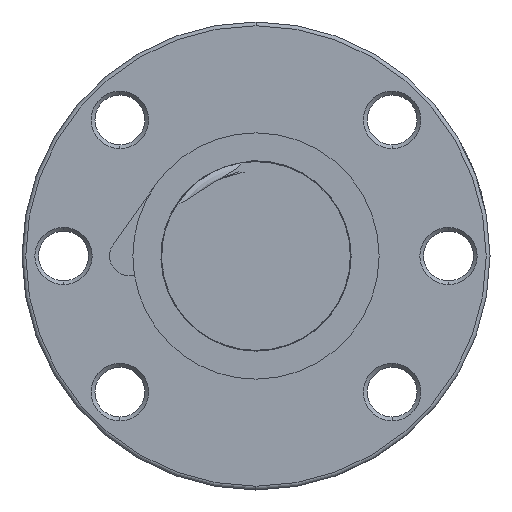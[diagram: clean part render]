
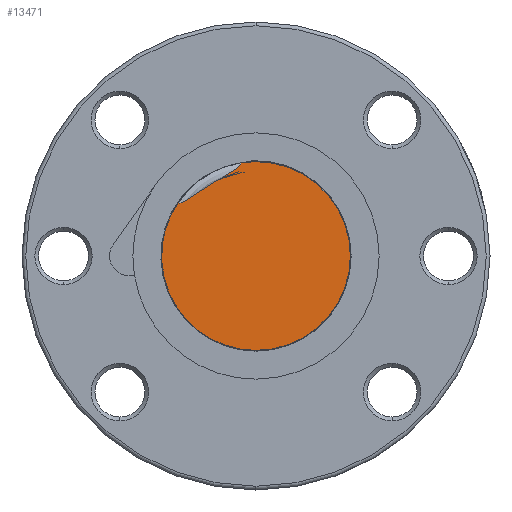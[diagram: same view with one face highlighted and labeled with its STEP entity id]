
A CAD part, left-side view. The second image highlights one B-rep face of the part: STEP entity #13471.
In plain terms, the highlighted planar face has unit normal (-1, 0, 0).
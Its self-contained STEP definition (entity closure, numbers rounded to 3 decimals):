
#4623 = CARTESIAN_POINT ( 'NONE',  ( -271., 10.355, 7.001 ) ) ;
#4681 = CARTESIAN_POINT ( 'NONE',  ( -271., 0., 12.5 ) ) ;
#4688 = CARTESIAN_POINT ( 'NONE',  ( -271., 1.927, 12.351 ) ) ;
#4710 = DIRECTION ( 'NONE',  ( 0., 1., 0. ) ) ;
#4711 = DIRECTION ( 'NONE',  ( 1., 0., 0. ) ) ;
#4712 = CARTESIAN_POINT ( 'NONE',  ( -271., 0., 0. ) ) ;
#4713 = AXIS2_PLACEMENT_3D ( 'NONE', #4712, #4711, #4710 ) ;
#4714 = CIRCLE ( 'NONE', #4713, 12.5 ) ;
#4781 = DIRECTION ( 'NONE',  ( 0., 1., 0. ) ) ;
#4782 = DIRECTION ( 'NONE',  ( 1., 0., 0. ) ) ;
#4783 = CARTESIAN_POINT ( 'NONE',  ( -271., 0., 0. ) ) ;
#4784 = AXIS2_PLACEMENT_3D ( 'NONE', #4783, #4782, #4781 ) ;
#4785 = CIRCLE ( 'NONE', #4784, 12.5 ) ;
#4787 = CARTESIAN_POINT ( 'NONE',  ( -271., 0., -12.5 ) ) ;
#12881 = EDGE_CURVE ( 'NONE', #12882, #12885, #4714, .T. ) ;
#12882 = VERTEX_POINT ( 'NONE', #4688 ) ;
#12885 = VERTEX_POINT ( 'NONE', #4681 ) ;
#12896 = VERTEX_POINT ( 'NONE', #4623 ) ;
#12905 = VERTEX_POINT ( 'NONE', #4787 ) ;
#12908 = EDGE_CURVE ( 'NONE', #12905, #12896, #4785, .T. ) ;
#13325 = EDGE_CURVE ( 'NONE', #12885, #12905, #15871, .T. ) ;
#13352 = ORIENTED_EDGE ( 'NONE', *, *, #13353, .T. ) ;
#13353 = EDGE_CURVE ( 'NONE', #12882, #12896, #16115, .T. ) ;
#13354 = ORIENTED_EDGE ( 'NONE', *, *, #12908, .F. ) ;
#13355 = ORIENTED_EDGE ( 'NONE', *, *, #13325, .F. ) ;
#13471 = ADVANCED_FACE ( 'NONE', ( #20634 ), #20615, .F. ) ;
#13472 = EDGE_LOOP ( 'NONE', ( #13473, #13352, #13354, #13355 ) ) ;
#13473 = ORIENTED_EDGE ( 'NONE', *, *, #12881, .F. ) ;
#15812 = DIRECTION ( 'NONE',  ( 0., 1., 0. ) ) ;
#15864 = DIRECTION ( 'NONE',  ( 1., 0., 0. ) ) ;
#15865 = CARTESIAN_POINT ( 'NONE',  ( -271., 0., 0. ) ) ;
#15866 = AXIS2_PLACEMENT_3D ( 'NONE', #15865, #15864, #15812 ) ;
#15871 = CIRCLE ( 'NONE', #15866, 12.5 ) ;
#16086 = CARTESIAN_POINT ( 'NONE',  ( -271., 10.355, 7.001 ) ) ;
#16087 = CARTESIAN_POINT ( 'NONE',  ( -271., 10.25, 6.997 ) ) ;
#16088 = CARTESIAN_POINT ( 'NONE',  ( -271., 10.144, 7.013 ) ) ;
#16089 = CARTESIAN_POINT ( 'NONE',  ( -271., 9.941, 7.062 ) ) ;
#16090 = CARTESIAN_POINT ( 'NONE',  ( -271., 9.842, 7.097 ) ) ;
#16091 = CARTESIAN_POINT ( 'NONE',  ( -271., 9.549, 7.214 ) ) ;
#16092 = CARTESIAN_POINT ( 'NONE',  ( -271., 9.363, 7.311 ) ) ;
#16093 = CARTESIAN_POINT ( 'NONE',  ( -271., 8.816, 7.619 ) ) ;
#16094 = CARTESIAN_POINT ( 'NONE',  ( -271., 8.464, 7.85 ) ) ;
#16095 = CARTESIAN_POINT ( 'NONE',  ( -271., 7.764, 8.313 ) ) ;
#16096 = CARTESIAN_POINT ( 'NONE',  ( -271., 7.416, 8.548 ) ) ;
#16097 = CARTESIAN_POINT ( 'NONE',  ( -271., 6.716, 9.011 ) ) ;
#16098 = CARTESIAN_POINT ( 'NONE',  ( -271., 6.013, 9.468 ) ) ;
#16099 = CARTESIAN_POINT ( 'NONE',  ( -271., 5.299, 9.909 ) ) ;
#16100 = CARTESIAN_POINT ( 'NONE',  ( -271., 4.582, 10.345 ) ) ;
#16101 = CARTESIAN_POINT ( 'NONE',  ( -271., 4.222, 10.561 ) ) ;
#16102 = CARTESIAN_POINT ( 'NONE',  ( -271., 3.505, 10.997 ) ) ;
#16103 = CARTESIAN_POINT ( 'NONE',  ( -271., 3.147, 11.217 ) ) ;
#16104 = CARTESIAN_POINT ( 'NONE',  ( -271., 2.634, 11.582 ) ) ;
#16105 = CARTESIAN_POINT ( 'NONE',  ( -271., 2.466, 11.71 ) ) ;
#16106 = CARTESIAN_POINT ( 'NONE',  ( -271., 2.234, 11.925 ) ) ;
#16107 = CARTESIAN_POINT ( 'NONE',  ( -271., 2.161, 12. ) ) ;
#16108 = CARTESIAN_POINT ( 'NONE',  ( -271., 2.028, 12.163 ) ) ;
#16109 = CARTESIAN_POINT ( 'NONE',  ( -271., 1.968, 12.253 ) ) ;
#16110 = CARTESIAN_POINT ( 'NONE',  ( -271., 1.927, 12.351 ) ) ;
#16115 = B_SPLINE_CURVE_WITH_KNOTS ( 'NONE', 3,
 ( #16110, #16109, #16108, #16107, #16106, #16105, #16104, #16103, #16102, #16101, #16100, #16099, #16098, #16097, #16096, #16095, #16094, #16093, #16092, #16091, #16090, #16089, #16088, #16087, #16086 ),
 .UNSPECIFIED., .F., .F.,
 ( 4, 2, 2, 2, 2, 2, 1, 2, 2, 2, 2, 2, 4 ),
 ( 0., 0.001, 0.001, 0.002, 0.003, 0.004, 0.005, 0.007, 0.008, 0.009, 0.01, 0.01, 0.01 ),
 .UNSPECIFIED. ) ;
#20611 = DIRECTION ( 'NONE',  ( 0., 0., -1. ) ) ;
#20612 = DIRECTION ( 'NONE',  ( 1., 0., 0. ) ) ;
#20613 = CARTESIAN_POINT ( 'NONE',  ( -271., 0., 0. ) ) ;
#20614 = AXIS2_PLACEMENT_3D ( 'NONE', #20613, #20612, #20611 ) ;
#20615 = PLANE ( 'NONE',  #20614 ) ;
#20634 = FACE_OUTER_BOUND ( 'NONE', #13472, .T. ) ;
